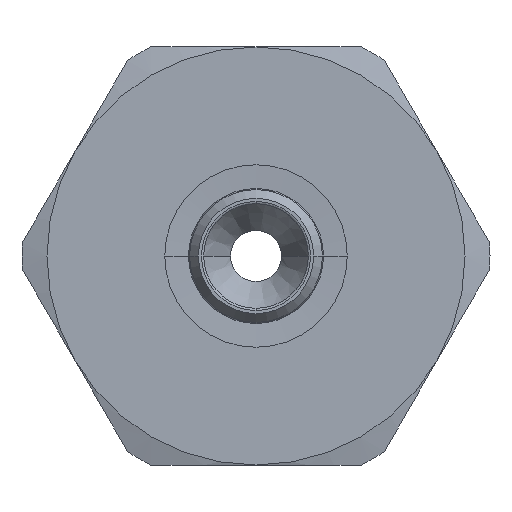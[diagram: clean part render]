
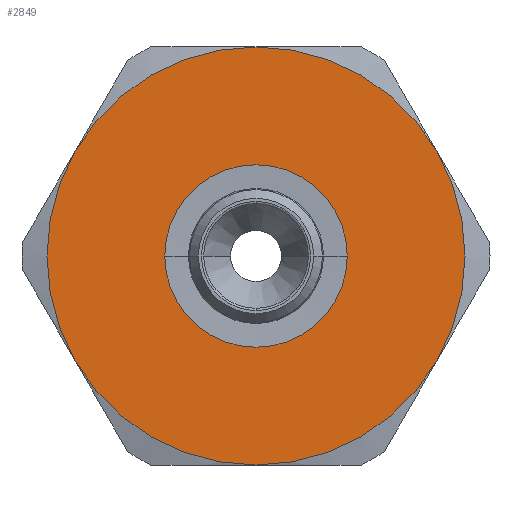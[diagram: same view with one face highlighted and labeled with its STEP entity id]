
A CAD part, left-side view. The second image highlights one B-rep face of the part: STEP entity #2849.
In plain terms, the highlighted planar face has unit normal (-1, 0, 0) as drawn and (0, 0, 1) by its records, which use the part's own axes.
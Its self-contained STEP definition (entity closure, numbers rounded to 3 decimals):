
#1176=CARTESIAN_POINT('',(0.,-8.95,5.));
#1177=VERTEX_POINT('',#1176);
#1193=CARTESIAN_POINT('',(0.,8.95,5.0));
#1194=VERTEX_POINT('',#1193);
#1201=CARTESIAN_POINT('',(0.,0.,5.0));
#1202=DIRECTION('',(0.0,0.0,-1.0));
#1203=DIRECTION('',(0.0,-1.0,0.0));
#1204=AXIS2_PLACEMENT_3D('',#1201,#1202,#1203);
#1205=CIRCLE('',#1204,8.95);
#1206=EDGE_CURVE('',#1177,#1194,#1205,.T.);
#1663=CARTESIAN_POINT('',(0.,0.,5.0));
#1664=DIRECTION('',(0.0,0.0,-1.0));
#1665=DIRECTION('',(0.0,-1.0,0.0));
#1666=AXIS2_PLACEMENT_3D('',#1663,#1664,#1665);
#1667=CIRCLE('',#1666,8.95);
#1668=EDGE_CURVE('',#1194,#1177,#1667,.T.);
#2222=CARTESIAN_POINT('',(10.25,-17.754,5.0));
#2223=VERTEX_POINT('',#2222);
#2237=CARTESIAN_POINT('',(-10.25,-17.754,5.0));
#2238=VERTEX_POINT('',#2237);
#2239=CARTESIAN_POINT('',(0.,0.0,5.0));
#2240=DIRECTION('',(0.0,0.0,1.0));
#2241=DIRECTION('',(1.0,0.0,0.0));
#2242=AXIS2_PLACEMENT_3D('',#2239,#2240,#2241);
#2243=CIRCLE('',#2242,20.5);
#2244=EDGE_CURVE('',#2238,#2223,#2243,.T.);
#2322=CARTESIAN_POINT('',(-20.5,0.,5.0));
#2323=VERTEX_POINT('',#2322);
#2324=CARTESIAN_POINT('',(0.,0.0,5.0));
#2325=DIRECTION('',(0.0,0.0,1.0));
#2326=DIRECTION('',(1.0,0.0,0.0));
#2327=AXIS2_PLACEMENT_3D('',#2324,#2325,#2326);
#2328=CIRCLE('',#2327,20.5);
#2329=EDGE_CURVE('',#2323,#2238,#2328,.T.);
#2406=CARTESIAN_POINT('',(-10.25,17.754,5.0));
#2407=VERTEX_POINT('',#2406);
#2408=CARTESIAN_POINT('',(0.,0.0,5.0));
#2409=DIRECTION('',(0.0,0.0,1.0));
#2410=DIRECTION('',(1.0,0.0,0.0));
#2411=AXIS2_PLACEMENT_3D('',#2408,#2409,#2410);
#2412=CIRCLE('',#2411,20.5);
#2413=EDGE_CURVE('',#2407,#2323,#2412,.T.);
#2490=CARTESIAN_POINT('',(10.25,17.754,5.0));
#2491=VERTEX_POINT('',#2490);
#2492=CARTESIAN_POINT('',(0.,0.0,5.0));
#2493=DIRECTION('',(0.0,0.0,1.0));
#2494=DIRECTION('',(1.0,0.0,0.0));
#2495=AXIS2_PLACEMENT_3D('',#2492,#2493,#2494);
#2496=CIRCLE('',#2495,20.5);
#2497=EDGE_CURVE('',#2491,#2407,#2496,.T.);
#2575=CARTESIAN_POINT('',(20.5,0.0,5.0));
#2576=VERTEX_POINT('',#2575);
#2577=CARTESIAN_POINT('',(0.,0.0,5.0));
#2578=DIRECTION('',(0.0,0.0,1.0));
#2579=DIRECTION('',(1.0,0.0,0.0));
#2580=AXIS2_PLACEMENT_3D('',#2577,#2578,#2579);
#2581=CIRCLE('',#2580,20.5);
#2582=EDGE_CURVE('',#2576,#2491,#2581,.T.);
#2659=CARTESIAN_POINT('',(0.,0.0,5.0));
#2660=DIRECTION('',(0.0,0.0,1.0));
#2661=DIRECTION('',(1.0,0.0,0.0));
#2662=AXIS2_PLACEMENT_3D('',#2659,#2660,#2661);
#2663=CIRCLE('',#2662,20.5);
#2664=EDGE_CURVE('',#2223,#2576,#2663,.T.);
#2832=CARTESIAN_POINT('',(0.,0.,5.0));
#2833=DIRECTION('',(0.0,0.0,1.0));
#2834=DIRECTION('',(1.0,0.0,0.0));
#2835=AXIS2_PLACEMENT_3D('',#2832,#2833,#2834);
#2836=PLANE('',#2835);
#2837=ORIENTED_EDGE('',*,*,#2664,.T.);
#2838=ORIENTED_EDGE('',*,*,#2582,.T.);
#2839=ORIENTED_EDGE('',*,*,#2497,.T.);
#2840=ORIENTED_EDGE('',*,*,#2413,.T.);
#2841=ORIENTED_EDGE('',*,*,#2329,.T.);
#2842=ORIENTED_EDGE('',*,*,#2244,.T.);
#2843=EDGE_LOOP('',(#2837,#2838,#2839,#2840,#2841,#2842));
#2844=FACE_OUTER_BOUND('',#2843,.T.);
#2845=ORIENTED_EDGE('',*,*,#1206,.T.);
#2846=ORIENTED_EDGE('',*,*,#1668,.T.);
#2847=EDGE_LOOP('',(#2845,#2846));
#2848=FACE_BOUND('',#2847,.T.);
#2849=ADVANCED_FACE('',(#2844,#2848),#2836,.T.);
